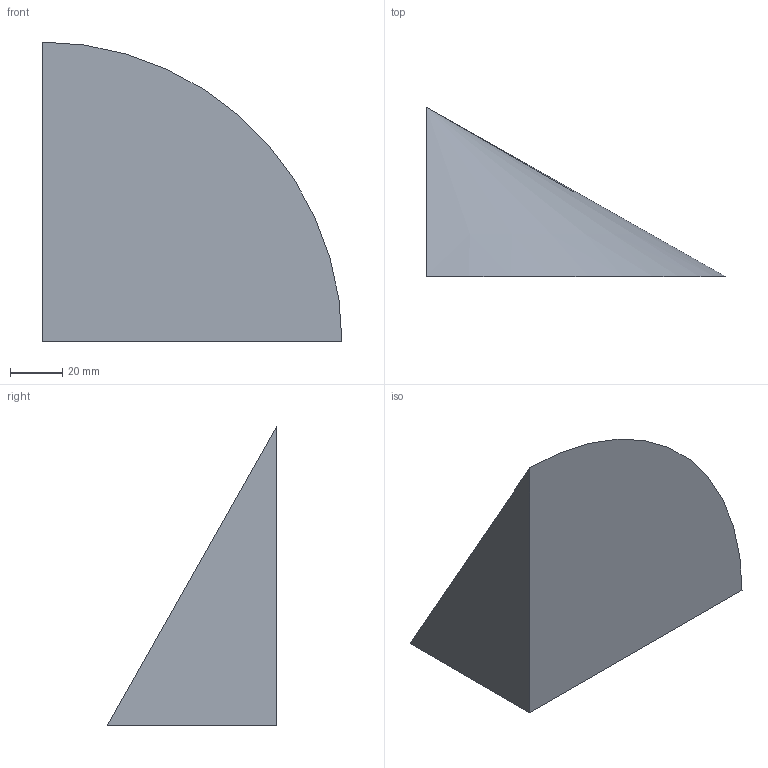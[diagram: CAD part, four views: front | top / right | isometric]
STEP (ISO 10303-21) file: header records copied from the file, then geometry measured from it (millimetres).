
FILE_DESCRIPTION(('CATIA V5 STEP Exchange'),'2;1');
FILE_NAME('C:\_Andres\UNIVERSIDAD\IQS\ASIGNATURAS\DAO\EXF\EXF-16172c\2inicio\Homs_Ruano_Ej07_v15.stp','2017-03-05T21:18:13+00:00',('none'),('none'),'CATIA Version 5-6 Release 2014 SP1 HF18','CATIA V5 STEP AP203','none');
FILE_SCHEMA(('CONFIG_CONTROL_DESIGN'));
Length unit declared in the file: millimetre
Products named in the file (1): Homs_Ruano_Ej07_v15
Bounding box: 115 x 65 x 115 mm (x, y, z)
Volume: 225049.3 mm3; surface area: 29793.1 mm2
Topology: 1 solids, 1 shells, 4 faces, 7 edges, 4 vertices
Faces by surface type: plane 3, cone 1
Entity records: 131 total; most frequent: CARTESIAN_POINT 15, DIRECTION 14, ORIENTED_EDGE 12, AXIS2_PLACEMENT_3D 6, EDGE_CURVE 6, VECTOR 5, LINE 5, ADVANCED_FACE 4
